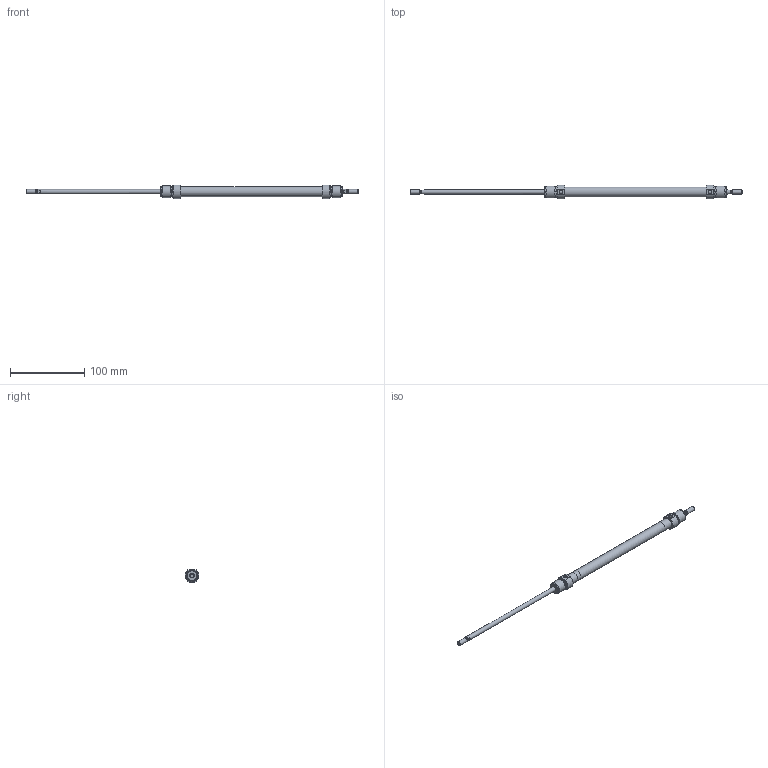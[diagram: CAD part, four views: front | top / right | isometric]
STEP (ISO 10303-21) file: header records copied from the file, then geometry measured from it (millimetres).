
FILE_DESCRIPTION( ( 'STEP AP203' ), '1' );
FILE_NAME( '//expscmdclustefs.cadenas.external/client_exchange/iodir/jobs/output/wkb68361117_no0/STEP/M101-012-0160-M__0__2_03.stp', ' ', ( ' ' ), ( ' ' ), 'PSStep 15.0.47', 'PARTsolutions', ' ' );
FILE_SCHEMA( ( 'CONFIG_CONTROL_DESIGN' ) );
Length unit declared in the file: millimetre
Products named in the file (3): M101-012-0160-M [0]; HI_M101-012-0160-M-[0]-z; HI_M101-012-0160-M-[0]-k
Assembly tree (2 placements, depth 2):
  M101-012-0160-M [0]
    HI_M101-012-0160-M-[0]-z
    HI_M101-012-0160-M-[0]-k
Bounding box: 446 x 18.73 x 17.86 mm (x, y, z)
Volume: 30315.9 mm3; surface area: 28328.8 mm2
Topology: 2 solids, 2 shells, 65 faces, 129 edges, 80 vertices
Faces by surface type: plane 26, cylinder 23, cone 14, torus 2
Full cylindrical faces by diameter (mm): 4.134 x2, 4.773 x2, 6 x6, 12 x2, 13.3 x1, 14.16 x4, 16 x4
Entity records: 1670 total; most frequent: CARTESIAN_POINT 324, DIRECTION 280, ORIENTED_EDGE 184, AXIS2_PLACEMENT_3D 128, EDGE_LOOP 116, EDGE_CURVE 92, FACE_OUTER_BOUND 88, VERTEX_POINT 76
